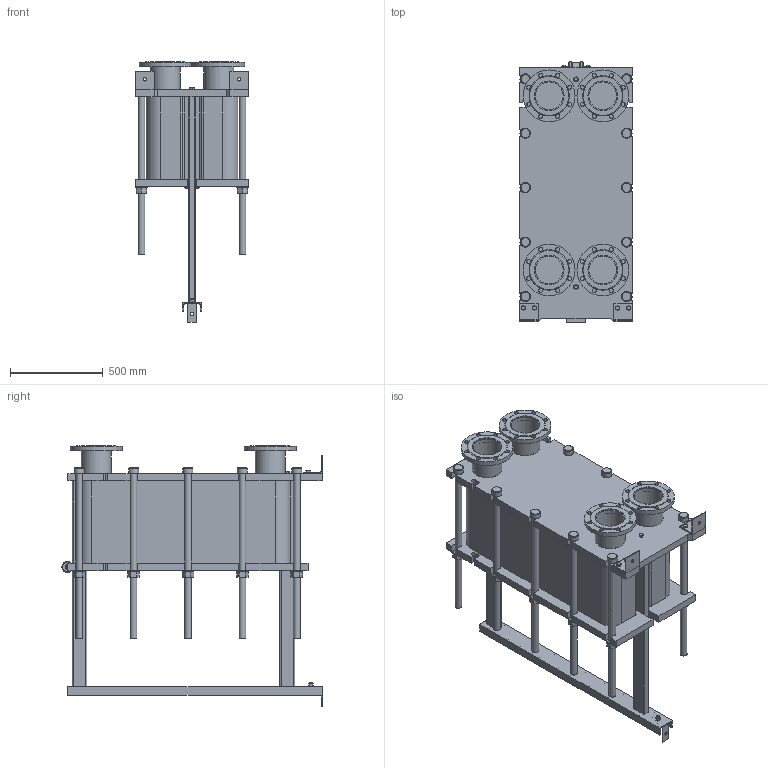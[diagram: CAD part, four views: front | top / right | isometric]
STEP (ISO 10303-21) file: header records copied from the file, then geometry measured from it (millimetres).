
FILE_DESCRIPTION(/* description */ (''),/* implementation_level */ '2;1');
FILE_NAME(/* name */ 'C:\Users\zhuro\Desktop\ENCO\TO\ЭН-041\ЭН-0,5-041-129-1.stp',/* time_stamp */ '2022-06-06T11:00:12+03:00',/* author */ ('zhuro'),/* organization */ (''),/* preprocessor_version */ 'ST-DEVELOPER v18.1',/* originating_system */ 'Autodesk Inventor 2022',/* authorisation */ '');
FILE_SCHEMA (('AUTOMOTIVE_DESIGN { 1 0 10303 214 3 1 1 }'));
Length unit declared in the file: millimetre
Products named in the file (1): ЭН-0,5-041-129-1
Bounding box: 610 x 1406.5 x 1407.5 mm (x, y, z)
Volume: 332823767 mm3; surface area: 9663937.3 mm2
Topology: 52 solids, 52 shells, 711 faces, 1696 edges, 1094 vertices
Faces by surface type: plane 487, cylinder 177, cone 41, torus 6
Full cylindrical faces by diameter (mm): 8 x4, 10 x2, 16 x8, 18 x3, 22 x32, 36 x24, 50 x1, 54 x10, 60 x12, 151 x4, 161 x8, 280 x4
Entity records: 22667 total; most frequent: CARTESIAN_POINT 5230, DIRECTION 3644, ORIENTED_EDGE 3392, EDGE_CURVE 1696, AXIS2_PLACEMENT_3D 1272, LINE 1100, VECTOR 1100, VERTEX_POINT 1094
